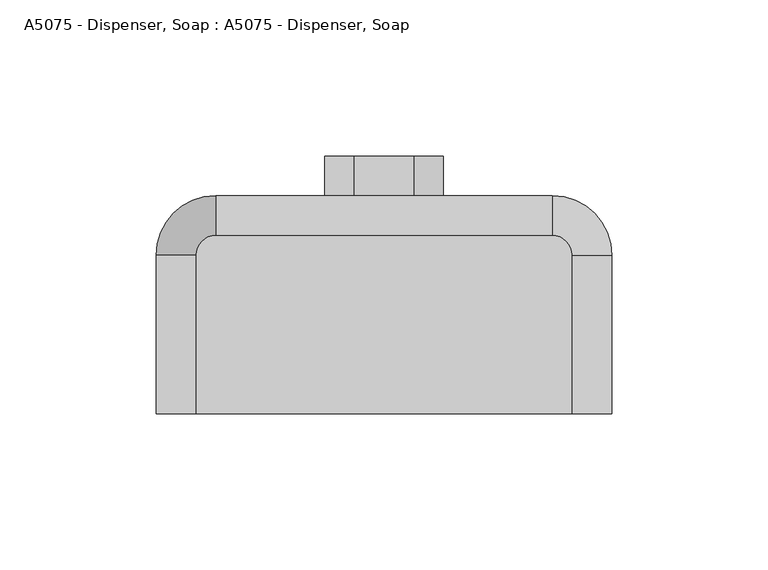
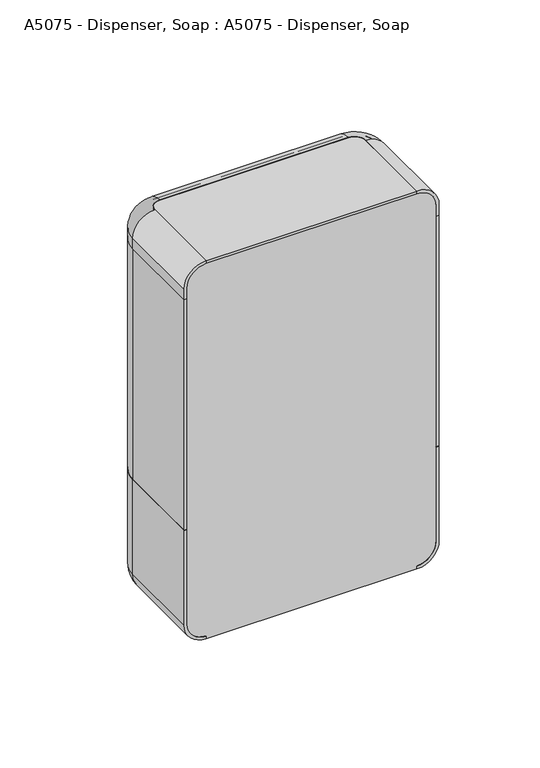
"""IFC4 building model written with IfcOpenShell, lengths in millimetres: proxy geometry, A5075 - Dispenser, Soap : A5075 - Dispenser, Soap."""

from ifc_helpers import new_model, si_unit, point, frame, frame_2d, origin, origin_with_axes, place, context, project, spatial, polyline, circle_curve, ellipse_curve, trimmed, segment, composite_curve, outline, extrude, source, transform, mapped, element, save
from ifc_brep_helpers import plane_surface, cylinder_surface, revolved_surface, advanced_brep


def a5075_dispenser_soap_a5075_dispenser_soap_771e7fba(model_context):
    return source(origin(), model_context, "Body", "SolidModel", [
        advanced_brep(
        [(-73.025, 0.0, 12.7), (-60.325, 0.0, 0.0), (-60.325, 0.0, 1.5875), (-71.4375, 0.0, 12.7), (-71.4375, 0.0, 69.85), (-73.025, 0.0, 69.85), (-73.025, 50.8, 69.85), (-73.025, 50.8, 12.7), (-71.4375, 50.8, 69.85), (-53.975, 68.2625, 69.85), (53.975, 68.2625, 69.85), (71.4375, 50.8, 69.85), (71.4375, 0.0, 69.85), (73.025, 0.0, 69.85), (73.025, 50.8, 69.85), (53.975, 69.85, 69.85), (-53.975, 69.85, 69.85), (-71.4375, 50.8, 12.7), (-60.325, 50.8, 1.5875), (-60.325, 50.8, 0.0), (-53.975, 69.85, 12.7), (-53.975, 68.2625, 12.7), (-53.975, 57.15, 1.5875), (-53.975, 57.15, 0.0), (53.975, 69.85, 12.7), (53.975, 68.2625, 12.7), (53.975, 57.15, 1.5875), (53.975, 57.15, 0.0), (73.025, 50.8, 12.7), (71.4375, 50.8, 12.7), (60.325, 50.8, 1.5875), (60.325, 50.8, 0.0), (73.025, 0.0, 12.7), (71.4375, 0.0, 12.7), (60.325, 0.0, 1.5875), (60.325, 0.0, 0.0)],
        [
            (0, 1, circle_curve(frame((-60.325, 0.0, 12.7), z_axis=(0.0, -1.0, 0.0), x_axis=(1.0, 0.0, 0.0)), 12.7)),
            (1, 2),
            (2, 3, circle_curve(frame((-60.325, 0.0, 12.7), z_axis=(0.0, 1.0, 0.0), x_axis=(1.0, 0.0, 0.0)), 11.1125)),
            (3, 4),
            (4, 5),
            (5, 0),
            (5, 6),
            (6, 7),
            (7, 0),
            (4, 8),
            (8, 9, circle_curve(frame((-53.975, 50.8, 69.85), z_axis=(0.0, 0.0, -1.0), x_axis=(-1.0, 0.0, 0.0)), 17.4625)),
            (9, 10),
            (10, 11, circle_curve(frame((53.975, 50.8, 69.85), z_axis=(0.0, 0.0, -1.0), x_axis=(0.0, 1.0, 0.0)), 17.4625)),
            (11, 12),
            (12, 13),
            (13, 14),
            (14, 15, circle_curve(frame((53.975, 50.8, 69.85), z_axis=(0.0, 0.0, 1.0), x_axis=(0.0, 1.0, 0.0)), 19.05)),
            (15, 16),
            (16, 6, circle_curve(frame((-53.975, 50.8, 69.85), z_axis=(0.0, 0.0, 1.0), x_axis=(-1.0, 0.0, 0.0)), 19.05)),
            (3, 17),
            (17, 8),
            (2, 18),
            (18, 17, circle_curve(frame((-60.325, 50.8, 12.7), z_axis=(0.0, 1.0, 0.0), x_axis=(1.0, 0.0, 0.0)), 11.1125)),
            (1, 19),
            (19, 18),
            (7, 19, circle_curve(frame((-60.325, 50.8, 12.7), z_axis=(0.0, -1.0, 0.0), x_axis=(1.0, 0.0, 0.0)), 12.7)),
            (16, 20),
            (20, 7, circle_curve(frame((-53.975, 50.8, 12.7), z_axis=(0.0, 0.0, 1.0), x_axis=(-1.0, 0.0, 0.0)), 19.05)),
            (21, 9),
            (17, 21, circle_curve(frame((-53.975, 50.8, 12.7), z_axis=(0.0, 0.0, -1.0), x_axis=(-1.0, 0.0, 0.0)), 17.4625)),
            (22, 21, circle_curve(frame((-53.975, 57.15, 12.7), z_axis=(1.0, 0.0, 0.0), x_axis=(0.0, -1.0, 0.0)), 11.1125)),
            (18, 22, circle_curve(frame((-53.975, 50.8, 1.5875), z_axis=(0.0, 0.0, -1.0), x_axis=(-1.0, 0.0, 0.0)), 6.35)),
            (23, 22),
            (19, 23, circle_curve(frame((-53.975, 50.8, 0.0), z_axis=(0.0, 0.0, -1.0), x_axis=(-1.0, 0.0, 0.0)), 6.35)),
            (20, 23, circle_curve(frame((-53.975, 57.15, 12.7), z_axis=(-1.0, 0.0, 0.0), x_axis=(0.0, -1.0, 0.0)), 12.7)),
            (15, 24),
            (24, 20),
            (21, 25),
            (25, 10),
            (22, 26),
            (26, 25, circle_curve(frame((53.975, 57.15, 12.7), z_axis=(1.0, 0.0, 0.0), x_axis=(0.0, -1.0, 0.0)), 11.1125)),
            (23, 27),
            (27, 26),
            (24, 27, circle_curve(frame((53.975, 57.15, 12.7), z_axis=(-1.0, 0.0, 0.0), x_axis=(0.0, -1.0, 0.0)), 12.7)),
            (14, 28),
            (28, 24, circle_curve(frame((53.975, 50.8, 12.7), z_axis=(0.0, 0.0, 1.0), x_axis=(0.0, 1.0, 0.0)), 19.05)),
            (29, 11),
            (25, 29, circle_curve(frame((53.975, 50.8, 12.7), z_axis=(0.0, 0.0, -1.0), x_axis=(0.0, 1.0, 0.0)), 17.4625)),
            (30, 29, circle_curve(frame((60.325, 50.8, 12.7), z_axis=(0.0, -1.0, 0.0), x_axis=(-1.0, 0.0, 0.0)), 11.1125)),
            (26, 30, circle_curve(frame((53.975, 50.8, 1.5875), z_axis=(0.0, 0.0, -1.0), x_axis=(0.0, 1.0, 0.0)), 6.35)),
            (31, 30),
            (27, 31, circle_curve(frame((53.975, 50.8, 0.0), z_axis=(0.0, 0.0, -1.0), x_axis=(0.0, 1.0, 0.0)), 6.35)),
            (28, 31, circle_curve(frame((60.325, 50.8, 12.7), z_axis=(0.0, 1.0, 0.0), x_axis=(-1.0, 0.0, 0.0)), 12.7)),
            (32, 13),
            (12, 33),
            (33, 34, circle_curve(frame((60.325, 0.0, 12.7), z_axis=(0.0, 1.0, 0.0), x_axis=(-1.0, 0.0, 0.0)), 11.1125)),
            (34, 35),
            (35, 32, circle_curve(frame((60.325, 0.0, 12.7), z_axis=(0.0, -1.0, 0.0), x_axis=(-1.0, 0.0, 0.0)), 12.7)),
            (32, 28),
            (29, 33),
            (30, 34),
            (31, 35),
        ],
        [
            plane_surface(frame((-73.025, 0.0, 0.0), z_axis=(0.0, -1.0, 0.0), x_axis=(0.0, 0.0, 1.0))),
            plane_surface(frame((-73.025, 0.0, 12.7), z_axis=(-1.0, 0.0, 0.0), x_axis=(0.0, 1.0, 0.0))),
            plane_surface(frame((-73.025, 0.0, 69.85), z_axis=(0.0, 0.0, 1.0), x_axis=(0.0, 1.0, 0.0))),
            plane_surface(frame((-71.4375, 0.0, 69.85), z_axis=(1.0, 0.0, 0.0), x_axis=(0.0, 1.0, 0.0))),
            revolved_surface(polyline([(-49.212500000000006, 50.8, 12.7), (-49.212500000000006, 0.0, 12.7)]), (-60.325, 0.0, 12.7), (0.0, 1.0, 0.0)),
            plane_surface(frame((-60.325, 0.0, 1.5875), z_axis=(1.0, 0.0, 0.0), x_axis=(0.0, 1.0, 0.0))),
            cylinder_surface(frame((-60.325, 0.0, 12.7), z_axis=(0.0, -1.0, 0.0), x_axis=(1.0, 0.0, 0.0)), 12.7),
            cylinder_surface(frame((-53.975, 50.8, 0.0), z_axis=(0.0, 0.0, 1.0), x_axis=(-1.0, 0.0, 0.0)), 19.05),
            revolved_surface(polyline([(-71.4375, 50.8, 69.85), (-71.4375, 50.8, 12.7)]), (-53.975, 50.8, 0.0), (0.0, 0.0, 1.0)),
            revolved_surface(trimmed(ellipse_curve(frame((-60.325, 50.8, 12.7), z_axis=(0.0, -1.0, 0.0), x_axis=(1.0, 0.0, 0.0)), 11.1125, 11.1125), [point((-71.4375, 50.8, 12.7))], [point((-60.325, 50.8, 1.5875))], True, "CARTESIAN"), (-53.975, 50.8, 0.0), (0.0, 0.0, 1.0)),
            revolved_surface(polyline([(-60.325, 50.8, 1.5875), (-60.325, 50.8, 0.0)]), (-53.975, 50.8, 0.0), (0.0, 0.0, 1.0)),
            revolved_surface(trimmed(ellipse_curve(frame((-60.325, 50.8, 12.7), z_axis=(0.0, 1.0, 0.0), x_axis=(1.0, 0.0, 0.0)), 12.7, 12.7), [point((-60.325, 50.8, 0.0))], [point((-73.025, 50.8, 12.7))], True, "CARTESIAN"), (-53.975, 50.8, 0.0), (0.0, 0.0, 1.0)),
            plane_surface(frame((-53.975, 69.85, 12.7), z_axis=(0.0, 1.0, 0.0), x_axis=(1.0, 0.0, 0.0))),
            plane_surface(frame((-53.975, 68.2625, 69.85), z_axis=(0.0, -1.0, 0.0), x_axis=(1.0, 0.0, 0.0))),
            revolved_surface(polyline([(53.975, 46.037499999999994, 12.7), (-53.975, 46.037499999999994, 12.7)]), (-53.975, 57.15, 12.7), (1.0, 0.0, 0.0)),
            plane_surface(frame((-53.975, 57.15, 1.5875), z_axis=(0.0, -1.0, 0.0), x_axis=(1.0, 0.0, 0.0))),
            cylinder_surface(frame((-53.975, 57.15, 12.7), z_axis=(-1.0, 0.0, 0.0), x_axis=(0.0, -1.0, 0.0)), 12.7),
            cylinder_surface(frame((53.975, 50.8, 0.0), z_axis=(0.0, 0.0, 1.0), x_axis=(0.0, 1.0, 0.0)), 19.05),
            revolved_surface(polyline([(53.975, 68.26249999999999, 69.85), (53.975, 68.26249999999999, 12.7)]), (53.975, 50.8, 0.0), (0.0, 0.0, 1.0)),
            revolved_surface(trimmed(ellipse_curve(frame((53.975, 57.15, 12.7), z_axis=(-1.0, 0.0, 0.0), x_axis=(0.0, -1.0, 0.0)), 11.1125, 11.1125), [point((53.975, 68.2625, 12.7))], [point((53.975, 57.15, 1.5875))], True, "CARTESIAN"), (53.975, 50.8, 0.0), (0.0, 0.0, 1.0)),
            revolved_surface(polyline([(53.975, 57.15, 1.5875), (53.975, 57.15, 0.0)]), (53.975, 50.8, 0.0), (0.0, 0.0, 1.0)),
            revolved_surface(trimmed(ellipse_curve(frame((53.975, 57.15, 12.7), z_axis=(1.0, 0.0, 0.0), x_axis=(0.0, -1.0, 0.0)), 12.7, 12.7), [point((53.975, 57.15, 0.0))], [point((53.975, 69.85, 12.7))], True, "CARTESIAN"), (53.975, 50.8, 0.0), (0.0, 0.0, 1.0)),
            plane_surface(frame((73.025, 0.0, 0.0), z_axis=(0.0, -1.0, 0.0), x_axis=(0.0, 0.0, 1.0))),
            plane_surface(frame((73.025, 50.8, 12.7), z_axis=(1.0, 0.0, 0.0), x_axis=(0.0, -1.0, 0.0))),
            plane_surface(frame((71.4375, 50.8, 69.85), z_axis=(-1.0, 0.0, 0.0), x_axis=(0.0, -1.0, 0.0))),
            revolved_surface(polyline([(49.212500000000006, 0.0, 12.7), (49.212500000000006, 50.8, 12.7)]), (60.325, 50.8, 12.7), (0.0, -1.0, 0.0)),
            plane_surface(frame((60.325, 50.8, 1.5875), z_axis=(-1.0, 0.0, 0.0), x_axis=(0.0, -1.0, 0.0))),
            cylinder_surface(frame((60.325, 50.8, 12.7), z_axis=(0.0, 1.0, 0.0), x_axis=(-1.0, 0.0, 0.0)), 12.7),
        ],
        [
            (0, [[1, 2, 3, 4, 5, 6]]),
            (1, [[7, 8, 9, -6]]),
            (2, [[10, 11, 12, 13, 14, 15, 16, 17, 18, 19, -7, -5]]),
            (3, [[20, 21, -10, -4]]),
            (4, [[22, 23, -20, -3]]),
            (5, [[24, 25, -22, -2]]),
            (6, [[-9, 26, -24, -1]]),
            (7, [[27, 28, -8, -19]]),
            (8, [[29, -11, -21, 30]]),
            (9, [[31, -30, -23, 32]]),
            (10, [[33, -32, -25, 34]]),
            (11, [[35, -34, -26, -28]]),
            (12, [[-18, 36, 37, -27]]),
            (13, [[38, 39, -12, -29]]),
            (14, [[40, 41, -38, -31]]),
            (15, [[42, 43, -40, -33]]),
            (16, [[-37, 44, -42, -35]]),
            (17, [[45, 46, -36, -17]]),
            (18, [[47, -13, -39, 48]]),
            (19, [[49, -48, -41, 50]]),
            (20, [[51, -50, -43, 52]]),
            (21, [[53, -52, -44, -46]]),
            (22, [[54, -15, 55, 56, 57, 58]]),
            (23, [[-16, -54, 59, -45]]),
            (24, [[60, -55, -14, -47]]),
            (25, [[61, -56, -60, -49]]),
            (26, [[62, -57, -61, -51]]),
            (27, [[-59, -58, -62, -53]]),
        ],
    ),
        advanced_brep(
        [(-73.025, 0.0, 215.9), (-73.025, 0.0, 209.55), (-71.4375, 0.0, 209.55), (-71.4375, 0.0, 215.9), (-60.325, 0.0, 227.0125), (-60.325, 0.0, 228.6), (-60.325, 50.8, 228.6), (-73.025, 50.8, 215.9), (-60.325, 50.8, 227.0125), (-71.4375, 50.8, 215.9), (-71.4375, 50.8, 209.55), (-73.025, 50.8, 209.55), (-53.975, 69.85, 209.55), (53.975, 69.85, 209.55), (73.025, 50.8, 209.55), (73.025, 0.0, 209.55), (71.4375, 0.0, 209.55), (71.4375, 50.8, 209.55), (53.975, 68.2625, 209.55), (-53.975, 68.2625, 209.55), (-53.975, 57.15, 228.6), (-53.975, 69.85, 215.9), (-53.975, 57.15, 227.0125), (-53.975, 68.2625, 215.9), (53.975, 57.15, 228.6), (53.975, 69.85, 215.9), (53.975, 57.15, 227.0125), (53.975, 68.2625, 215.9), (60.325, 50.8, 228.6), (73.025, 50.8, 215.9), (60.325, 50.8, 227.0125), (71.4375, 50.8, 215.9), (73.025, 0.0, 215.9), (60.325, 0.0, 228.6), (60.325, 0.0, 227.0125), (71.4375, 0.0, 215.9)],
        [
            (0, 1),
            (1, 2),
            (2, 3),
            (3, 4, circle_curve(frame((-60.325, 0.0, 215.9), z_axis=(0.0, 1.0, 0.0), x_axis=(1.0, 0.0, 0.0)), 11.1125)),
            (4, 5),
            (5, 0, circle_curve(frame((-60.325, 0.0, 215.9), z_axis=(0.0, -1.0, 0.0), x_axis=(1.0, 0.0, 0.0)), 12.7)),
            (5, 6),
            (6, 7, circle_curve(frame((-60.325, 50.8, 215.9), z_axis=(0.0, -1.0, 0.0), x_axis=(1.0, 0.0, 0.0)), 12.7)),
            (7, 0),
            (4, 8),
            (8, 6),
            (3, 9),
            (9, 8, circle_curve(frame((-60.325, 50.8, 215.9), z_axis=(0.0, 1.0, 0.0), x_axis=(1.0, 0.0, 0.0)), 11.1125)),
            (2, 10),
            (10, 9),
            (1, 11),
            (11, 12, circle_curve(frame((-53.975, 50.8, 209.55), z_axis=(0.0, 0.0, -1.0), x_axis=(-1.0, 0.0, 0.0)), 19.05)),
            (12, 13),
            (13, 14, circle_curve(frame((53.975, 50.8, 209.55), z_axis=(0.0, 0.0, -1.0), x_axis=(0.0, 1.0, 0.0)), 19.05)),
            (14, 15),
            (15, 16),
            (16, 17),
            (17, 18, circle_curve(frame((53.975, 50.8, 209.55), z_axis=(0.0, 0.0, 1.0), x_axis=(0.0, 1.0, 0.0)), 17.4625)),
            (18, 19),
            (19, 10, circle_curve(frame((-53.975, 50.8, 209.55), z_axis=(0.0, 0.0, 1.0), x_axis=(-1.0, 0.0, 0.0)), 17.4625)),
            (7, 11),
            (20, 21, circle_curve(frame((-53.975, 57.15, 215.9), z_axis=(-1.0, 0.0, 0.0), x_axis=(0.0, -1.0, 0.0)), 12.7)),
            (21, 7, circle_curve(frame((-53.975, 50.8, 215.9), z_axis=(0.0, 0.0, 1.0), x_axis=(-1.0, 0.0, 0.0)), 19.05)),
            (6, 20, circle_curve(frame((-53.975, 50.8, 228.6), z_axis=(0.0, 0.0, -1.0), x_axis=(-1.0, 0.0, 0.0)), 6.35)),
            (22, 20),
            (8, 22, circle_curve(frame((-53.975, 50.8, 227.0125), z_axis=(0.0, 0.0, -1.0), x_axis=(-1.0, 0.0, 0.0)), 6.35)),
            (23, 22, circle_curve(frame((-53.975, 57.15, 215.9), z_axis=(1.0, 0.0, 0.0), x_axis=(0.0, -1.0, 0.0)), 11.1125)),
            (9, 23, circle_curve(frame((-53.975, 50.8, 215.9), z_axis=(0.0, 0.0, -1.0), x_axis=(-1.0, 0.0, 0.0)), 17.4625)),
            (19, 23),
            (21, 12),
            (20, 24),
            (24, 25, circle_curve(frame((53.975, 57.15, 215.9), z_axis=(-1.0, 0.0, 0.0), x_axis=(0.0, -1.0, 0.0)), 12.7)),
            (25, 21),
            (22, 26),
            (26, 24),
            (23, 27),
            (27, 26, circle_curve(frame((53.975, 57.15, 215.9), z_axis=(1.0, 0.0, 0.0), x_axis=(0.0, -1.0, 0.0)), 11.1125)),
            (18, 27),
            (25, 13),
            (28, 29, circle_curve(frame((60.325, 50.8, 215.9), z_axis=(0.0, 1.0, 0.0), x_axis=(-1.0, 0.0, 0.0)), 12.7)),
            (29, 25, circle_curve(frame((53.975, 50.8, 215.9), z_axis=(0.0, 0.0, 1.0), x_axis=(0.0, 1.0, 0.0)), 19.05)),
            (24, 28, circle_curve(frame((53.975, 50.8, 228.6), z_axis=(0.0, 0.0, -1.0), x_axis=(0.0, 1.0, 0.0)), 6.35)),
            (30, 28),
            (26, 30, circle_curve(frame((53.975, 50.8, 227.0125), z_axis=(0.0, 0.0, -1.0), x_axis=(0.0, 1.0, 0.0)), 6.35)),
            (31, 30, circle_curve(frame((60.325, 50.8, 215.9), z_axis=(0.0, -1.0, 0.0), x_axis=(-1.0, 0.0, 0.0)), 11.1125)),
            (27, 31, circle_curve(frame((53.975, 50.8, 215.9), z_axis=(0.0, 0.0, -1.0), x_axis=(0.0, 1.0, 0.0)), 17.4625)),
            (17, 31),
            (29, 14),
            (32, 33, circle_curve(frame((60.325, 0.0, 215.9), z_axis=(0.0, -1.0, 0.0), x_axis=(-1.0, 0.0, 0.0)), 12.7)),
            (33, 34),
            (34, 35, circle_curve(frame((60.325, 0.0, 215.9), z_axis=(0.0, 1.0, 0.0), x_axis=(-1.0, 0.0, 0.0)), 11.1125)),
            (35, 16),
            (15, 32),
            (28, 33),
            (32, 29),
            (30, 34),
            (31, 35),
        ],
        [
            plane_surface(frame((-73.025, 0.0, 228.6), z_axis=(0.0, -1.0, 0.0), x_axis=(0.0, 0.0, 1.0))),
            cylinder_surface(frame((-60.325, 0.0, 215.9), z_axis=(0.0, -1.0, 0.0), x_axis=(1.0, 0.0, 0.0)), 12.7),
            plane_surface(frame((-60.325, 0.0, 228.6), z_axis=(1.0, 0.0, 0.0), x_axis=(0.0, 1.0, 0.0))),
            revolved_surface(polyline([(-49.212500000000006, 50.8, 215.9), (-49.212500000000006, 0.0, 215.9)]), (-60.325, 0.0, 215.9), (0.0, 1.0, 0.0)),
            plane_surface(frame((-71.4375, 0.0, 215.9), z_axis=(1.0, 0.0, 0.0), x_axis=(0.0, 1.0, 0.0))),
            plane_surface(frame((-71.4375, 0.0, 209.55), z_axis=(0.0, 0.0, -1.0), x_axis=(0.0, 1.0, 0.0))),
            plane_surface(frame((-73.025, 0.0, 209.55), z_axis=(-1.0, 0.0, 0.0), x_axis=(0.0, 1.0, 0.0))),
            revolved_surface(trimmed(ellipse_curve(frame((-60.325, 50.8, 215.9), z_axis=(0.0, 1.0, 0.0), x_axis=(1.0, 0.0, 0.0)), 12.7, 12.7), [point((-73.025, 50.8, 215.9))], [point((-60.325, 50.8, 228.6))], True, "CARTESIAN"), (-53.975, 50.8, 228.6), (0.0, 0.0, 1.0)),
            revolved_surface(polyline([(-60.325, 50.8, 228.6), (-60.325, 50.8, 227.0125)]), (-53.975, 50.8, 228.6), (0.0, 0.0, 1.0)),
            revolved_surface(trimmed(ellipse_curve(frame((-60.325, 50.8, 215.9), z_axis=(0.0, -1.0, 0.0), x_axis=(1.0, 0.0, 0.0)), 11.1125, 11.1125), [point((-60.325, 50.8, 227.0125))], [point((-71.4375, 50.8, 215.9))], True, "CARTESIAN"), (-53.975, 50.8, 228.6), (0.0, 0.0, 1.0)),
            revolved_surface(polyline([(-71.4375, 50.8, 215.9), (-71.4375, 50.8, 209.55)]), (-53.975, 50.8, 228.6), (0.0, 0.0, 1.0)),
            cylinder_surface(frame((-53.975, 50.8, 228.6), z_axis=(0.0, 0.0, 1.0), x_axis=(-1.0, 0.0, 0.0)), 19.05),
            cylinder_surface(frame((-53.975, 57.15, 215.9), z_axis=(-1.0, 0.0, 0.0), x_axis=(0.0, -1.0, 0.0)), 12.7),
            plane_surface(frame((-53.975, 57.15, 228.6), z_axis=(0.0, -1.0, 0.0), x_axis=(1.0, 0.0, 0.0))),
            revolved_surface(polyline([(53.975, 46.037499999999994, 215.9), (-53.975, 46.037499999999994, 215.9)]), (-53.975, 57.15, 215.9), (1.0, 0.0, 0.0)),
            plane_surface(frame((-53.975, 68.2625, 215.9), z_axis=(0.0, -1.0, 0.0), x_axis=(1.0, 0.0, 0.0))),
            plane_surface(frame((-53.975, 69.85, 209.55), z_axis=(0.0, 1.0, 0.0), x_axis=(1.0, 0.0, 0.0))),
            revolved_surface(trimmed(ellipse_curve(frame((53.975, 57.15, 215.9), z_axis=(1.0, 0.0, 0.0), x_axis=(0.0, -1.0, 0.0)), 12.7, 12.7), [point((53.975, 69.85, 215.9))], [point((53.975, 57.15, 228.6))], True, "CARTESIAN"), (53.975, 50.8, 228.6), (0.0, 0.0, 1.0)),
            revolved_surface(polyline([(53.975, 57.15, 228.6), (53.975, 57.15, 227.0125)]), (53.975, 50.8, 228.6), (0.0, 0.0, 1.0)),
            revolved_surface(trimmed(ellipse_curve(frame((53.975, 57.15, 215.9), z_axis=(-1.0, 0.0, 0.0), x_axis=(0.0, -1.0, 0.0)), 11.1125, 11.1125), [point((53.975, 57.15, 227.0125))], [point((53.975, 68.2625, 215.9))], True, "CARTESIAN"), (53.975, 50.8, 228.6), (0.0, 0.0, 1.0)),
            revolved_surface(polyline([(53.975, 68.26249999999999, 215.9), (53.975, 68.26249999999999, 209.55)]), (53.975, 50.8, 228.6), (0.0, 0.0, 1.0)),
            cylinder_surface(frame((53.975, 50.8, 228.6), z_axis=(0.0, 0.0, 1.0), x_axis=(0.0, 1.0, 0.0)), 19.05),
            plane_surface(frame((73.025, 0.0, 228.6), z_axis=(0.0, -1.0, 0.0), x_axis=(0.0, 0.0, 1.0))),
            cylinder_surface(frame((60.325, 50.8, 215.9), z_axis=(0.0, 1.0, 0.0), x_axis=(-1.0, 0.0, 0.0)), 12.7),
            plane_surface(frame((60.325, 50.8, 228.6), z_axis=(-1.0, 0.0, 0.0), x_axis=(0.0, -1.0, 0.0))),
            revolved_surface(polyline([(49.212500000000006, 0.0, 215.9), (49.212500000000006, 50.8, 215.9)]), (60.325, 50.8, 215.9), (0.0, -1.0, 0.0)),
            plane_surface(frame((71.4375, 50.8, 215.9), z_axis=(-1.0, 0.0, 0.0), x_axis=(0.0, -1.0, 0.0))),
            plane_surface(frame((73.025, 50.8, 209.55), z_axis=(1.0, 0.0, 0.0), x_axis=(0.0, -1.0, 0.0))),
        ],
        [
            (0, [[1, 2, 3, 4, 5, 6]]),
            (1, [[7, 8, 9, -6]]),
            (2, [[10, 11, -7, -5]]),
            (3, [[12, 13, -10, -4]]),
            (4, [[14, 15, -12, -3]]),
            (5, [[16, 17, 18, 19, 20, 21, 22, 23, 24, 25, -14, -2]]),
            (6, [[-9, 26, -16, -1]]),
            (7, [[27, 28, -8, 29]]),
            (8, [[30, -29, -11, 31]]),
            (9, [[32, -31, -13, 33]]),
            (10, [[34, -33, -15, -25]]),
            (11, [[35, -17, -26, -28]]),
            (12, [[36, 37, 38, -27]]),
            (13, [[39, 40, -36, -30]]),
            (14, [[41, 42, -39, -32]]),
            (15, [[-24, 43, -41, -34]]),
            (16, [[-38, 44, -18, -35]]),
            (17, [[45, 46, -37, 47]]),
            (18, [[48, -47, -40, 49]]),
            (19, [[50, -49, -42, 51]]),
            (20, [[52, -51, -43, -23]]),
            (21, [[53, -19, -44, -46]]),
            (22, [[54, 55, 56, 57, -21, 58]]),
            (23, [[59, -54, 60, -45]]),
            (24, [[61, -55, -59, -48]]),
            (25, [[62, -56, -61, -50]]),
            (26, [[-22, -57, -62, -52]]),
            (27, [[-60, -58, -20, -53]]),
        ],
    ),
        extrude(outline(composite_curve([segment(trimmed(circle_curve(frame_2d((-53.975, 50.8)), 19.05), [point((-73.025, 50.8))], [point((-53.975, 69.85))], False, "CARTESIAN"), True, "CONTINUOUS"), segment(polyline([(-53.975, 69.85), (53.975, 69.85)]), True, "CONTINUOUS"), segment(trimmed(circle_curve(frame_2d((53.975, 50.8)), 19.05), [point((53.975, 69.85))], [point((73.025, 50.8))], False, "CARTESIAN"), True, "CONTINUOUS"), segment(polyline([(73.025, 50.8), (73.025, 0.0), (71.4375, 0.0), (71.4375, 50.8)]), True, "CONTINUOUS"), segment(trimmed(circle_curve(frame_2d((53.975, 50.8)), 17.4625), [point((71.4375, 50.8))], [point((53.975, 68.2625))], True, "CARTESIAN"), True, "CONTINUOUS"), segment(polyline([(53.975, 68.2625), (-53.975, 68.2625)]), True, "CONTINUOUS"), segment(trimmed(circle_curve(frame_2d((-53.975, 50.8)), 17.4625), [point((-53.975, 68.2625))], [point((-71.4375, 50.8))], True, "CARTESIAN"), True, "CONTINUOUS"), segment(polyline([(-71.4375, 50.8), (-71.4375, 0.0), (-73.025, 0.0), (-73.025, 50.8)]), True, "CONTINUOUS")], self_intersect=False)), frame((0.0, 0.0, 69.85), z_axis=(0.0, 0.0, 1.0), x_axis=(1.0, 0.0, 0.0)), (0.0, 0.0, 1.0), 139.7),
        extrude(outline(composite_curve([segment(trimmed(circle_curve(frame_2d((28.575, -9.525)), 9.525), [point((38.1, -9.525))], [point((19.05, -9.525))], False, "CARTESIAN"), True, "CONTINUOUS"), segment(polyline([(19.05, -9.525), (19.05, 9.525)]), True, "CONTINUOUS"), segment(trimmed(circle_curve(frame_2d((28.575, 9.525)), 9.525), [point((19.05, 9.525))], [point((38.1, 9.525))], False, "CARTESIAN"), True, "CONTINUOUS"), segment(polyline([(38.1, 9.525), (38.1, -9.525)]), True, "CONTINUOUS")], self_intersect=False)), frame((0.0, 69.85, 0.0), z_axis=(0.0, 1.0, 0.0), x_axis=(0.0, 0.0, 1.0)), (0.0, 0.0, 1.0), 12.7),
        extrude(outline(composite_curve([segment(polyline([(-60.325, 0.0), (-60.325, 50.8)]), True, "CONTINUOUS"), segment(trimmed(circle_curve(frame_2d((-53.975, 50.8)), 6.35), [point((-60.325, 50.8))], [point((-53.975, 57.15))], False, "CARTESIAN"), True, "CONTINUOUS"), segment(polyline([(-53.975, 57.15), (53.975, 57.15)]), True, "CONTINUOUS"), segment(trimmed(circle_curve(frame_2d((53.975, 50.8)), 6.35), [point((53.975, 57.15))], [point((60.325, 50.8))], False, "CARTESIAN"), True, "CONTINUOUS"), segment(polyline([(60.325, 50.8), (60.325, 0.0), (-60.325, 0.0)]), True, "CONTINUOUS")], self_intersect=False)), frame((0.0, 0.0, 227.0125), z_axis=(0.0, 0.0, 1.0), x_axis=(1.0, 0.0, 0.0)), (0.0, 0.0, 1.0), 1.5875),
        extrude(outline(composite_curve([segment(trimmed(circle_curve(frame_2d((215.9, -60.325)), 12.7), [point((228.6, -60.325))], [point((215.9, -73.025))], False, "CARTESIAN"), True, "CONTINUOUS"), segment(polyline([(215.9, -73.025), (12.7, -73.025)]), True, "CONTINUOUS"), segment(trimmed(circle_curve(frame_2d((12.7, -60.325)), 12.7), [point((12.7, -73.025))], [point((0.0, -60.325))], False, "CARTESIAN"), True, "CONTINUOUS"), segment(polyline([(0.0, -60.325), (0.0, 60.325)]), True, "CONTINUOUS"), segment(trimmed(circle_curve(frame_2d((12.7, 60.325)), 12.7), [point((0.0, 60.325))], [point((12.7, 73.025))], False, "CARTESIAN"), True, "CONTINUOUS"), segment(polyline([(12.7, 73.025), (215.9, 73.025)]), True, "CONTINUOUS"), segment(trimmed(circle_curve(frame_2d((215.9, 60.325)), 12.7), [point((215.9, 73.025))], [point((228.6, 60.325))], False, "CARTESIAN"), True, "CONTINUOUS"), segment(polyline([(228.6, 60.325), (228.6, -60.325)]), True, "CONTINUOUS")], self_intersect=False)), frame((0.0, 0.0, 0.0), z_axis=(0.0, 1.0, 0.0), x_axis=(0.0, 0.0, 1.0)), (0.0, 0.0, 1.0), 6.35),
        extrude(outline(composite_curve([segment(trimmed(circle_curve(frame_2d((53.975, 50.8)), 17.4625), [point((53.975, 68.2625))], [point((71.4375, 50.8))], False, "CARTESIAN"), True, "CONTINUOUS"), segment(polyline([(71.4375, 50.8), (71.4375, 0.0), (-71.4375, 0.0), (-71.4375, 50.8)]), True, "CONTINUOUS"), segment(trimmed(circle_curve(frame_2d((-53.975, 50.8)), 17.4625), [point((-71.4375, 50.8))], [point((-53.975, 68.2625))], False, "CARTESIAN"), True, "CONTINUOUS"), segment(polyline([(-53.975, 68.2625), (53.975, 68.2625)]), True, "CONTINUOUS")], self_intersect=False)), frame((0.0, 0.0, 69.85), z_axis=(0.0, 0.0, 1.0), x_axis=(1.0, 0.0, 0.0)), (0.0, 0.0, 1.0), 101.8530988),
        extrude(outline(composite_curve([segment(trimmed(circle_curve(frame_2d((0.0, 41.275)), 9.525), [point((-9.525, 41.275))], [point((9.525, 41.275))], False, "CARTESIAN"), True, "CONTINUOUS"), segment(trimmed(circle_curve(frame_2d((0.0, 41.275)), 9.525), [point((9.525, 41.275))], [point((-9.525, 41.275))], False, "CARTESIAN"), True, "CONTINUOUS")], self_intersect=False)), frame((0.0, 0.0, -12.7), z_axis=(0.0, 0.0, 1.0), x_axis=(1.0, 0.0, 0.0)), (0.0, 0.0, 1.0), 12.7),
        extrude(outline(composite_curve([segment(polyline([(-60.325, 0.0), (-60.325, 50.8)]), True, "CONTINUOUS"), segment(trimmed(circle_curve(frame_2d((-53.975, 50.8)), 6.35), [point((-60.325, 50.8))], [point((-53.975, 57.15))], False, "CARTESIAN"), True, "CONTINUOUS"), segment(polyline([(-53.975, 57.15), (53.975, 57.15)]), True, "CONTINUOUS"), segment(trimmed(circle_curve(frame_2d((53.975, 50.8)), 6.35), [point((53.975, 57.15))], [point((60.325, 50.8))], False, "CARTESIAN"), True, "CONTINUOUS"), segment(polyline([(60.325, 50.8), (60.325, 0.0), (-60.325, 0.0)]), True, "CONTINUOUS")], self_intersect=False)), origin_with_axes(), (0.0, 0.0, 1.0), 1.5875),
    ])


if __name__ == "__main__":
    model = new_model("IFC4")
    model_context = context("Model", 3, world=origin())
    ifc_project = project(units=[si_unit("LENGTHUNIT", "METRE", prefix="MILLI")], contexts=[model_context])
    site = spatial("IfcSite", under=ifc_project)
    building = spatial("IfcBuilding", under=site)
    placement = place(None, origin())
    a5075_dispenser_soap_a5075_dispenser_soap_shape = a5075_dispenser_soap_a5075_dispenser_soap_771e7fba(model_context)
    element("IfcBuildingElementProxy", 1, Name="A5075 - Dispenser, Soap : A5075 - Dispenser, Soap", ObjectType="A5075 - Dispenser, Soap : A5075 - Dispenser, Soap", at=placement, inside=building, context=model_context, shape_type="MappedRepresentation", body=[
        mapped(a5075_dispenser_soap_a5075_dispenser_soap_shape, transform((0.0, 0.0, 0.0), x_axis=(1.0, 0.0, 0.0), y_axis=(0.0, 1.0, 0.0), z_axis=(0.0, 0.0, 1.0))),
    ])
    save(model, "model.ifc")
